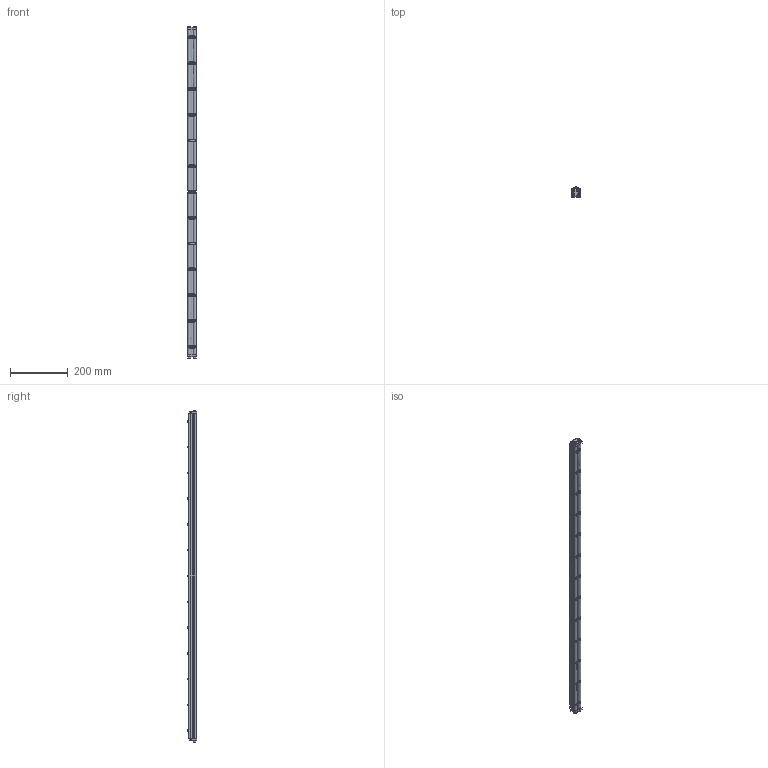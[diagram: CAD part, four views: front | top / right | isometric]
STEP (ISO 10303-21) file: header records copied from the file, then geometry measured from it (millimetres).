
FILE_DESCRIPTION((''),'2;1');
FILE_NAME('324944_ASM','2023-03-14T',('jenni.wallner'),(''),'PRO/ENGINEER BY PARAMETRIC TECHNOLOGY CORPORATION, 2012420','PRO/ENGINEER BY PARAMETRIC TECHNOLOGY CORPORATION, 2012420','');
FILE_SCHEMA(('CONFIG_CONTROL_DESIGN'));
Length unit declared in the file: inch
Products named in the file (7): 240827_CAE; X920693M; 240826; 2436WW_243644; 2410WW_CAE_241044; ASM0001_ASM; 324944_ASM
Assembly tree (22 placements, depth 3):
  324944_ASM
    ASM0001_ASM
      240827_CAE  x2
      X920693M  x4
      240826  x13
      2436WW_243644
      2410WW_CAE_241044
Bounding box: 30.88 x 33.34 x 1145.01 mm (x, y, z)
Volume: 545234.7 mm3; surface area: 322596.1 mm2
Topology: 21 solids, 21 shells, 769 faces, 2192 edges, 1447 vertices
Faces by surface type: cylinder 353, plane 256, cone 108, torus 52
Entity records: 18607 total; most frequent: CARTESIAN_POINT 4604, ORIENTED_EDGE 3064, DIRECTION 2933, EDGE_CURVE 1532, AXIS2_PLACEMENT_3D 1112, VERTEX_POINT 1023, VECTOR 709, LINE 709
